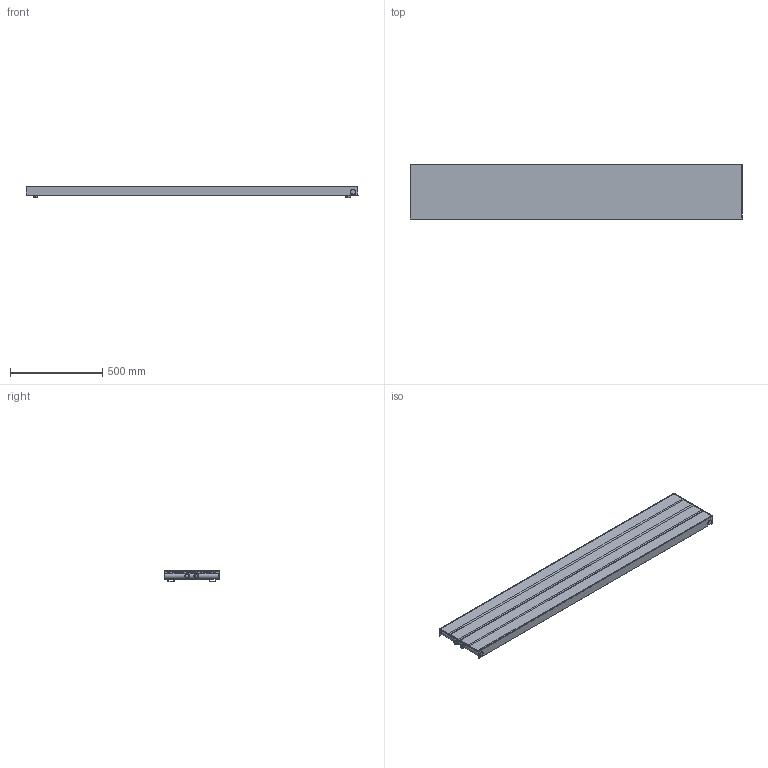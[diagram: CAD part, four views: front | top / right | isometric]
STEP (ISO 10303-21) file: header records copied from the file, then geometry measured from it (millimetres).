
FILE_DESCRIPTION(/* description */ (''),/* implementation_level */ '2;1');
FILE_NAME(/* name */ 'C:\Grzejniki\13DLUXRAD\pokojowe\NIAGARA\to\NIAGARA z osłoną w kolorze standardowym 1800x300.iam.stp',/* time_stamp */ '2016-06-28T17:34:13+02:00',/* author */ ('m.szydziak'),/* organization */ (''),/* preprocessor_version */ 'ST-DEVELOPER v16.5',/* originating_system */ 'Autodesk Inventor 2017',/* authorisation */ '');
FILE_SCHEMA (('AUTOMOTIVE_DESIGN { 1 0 10303 214 3 1 1 }'));
Length unit declared in the file: millimetre
Products named in the file (12): NIAGARA z osłoną w kolorze standa
rdowym 1800x300; NIAGARA 1800x300 osłona; NIAGARA 1800x295 ZDC; %%C30x1,5x295; 70x8x1,2x1804; michałek; ucho duze; ucho duze 2; poprzeczka 255; ZDC dzwonki; dzwonek G0,5inch; korek
Assembly tree (27 placements, depth 4):
  NIAGARA z osłoną w kolorze standa
rdowym 1800x300
    NIAGARA 1800x300 osłona
    NIAGARA 1800x295 ZDC
      %%C30x1,5x295  x2
      70x8x1,2x1804  x4
      michałek  x8
      ucho duze  x2
      ucho duze 2  x2
      poprzeczka 255  x3
      ZDC dzwonki
        dzwonek G0,5inch  x2
      korek
Bounding box: 1802 x 303.5 x 63.3 mm (x, y, z)
Volume: 1992860.1 mm3; surface area: 3734111.7 mm2
Topology: 25 solids, 25 shells, 381 faces, 869 edges, 540 vertices
Faces by surface type: plane 207, cylinder 138, sphere 32, cone 2, bspline 2
Full cylindrical faces by diameter (mm): 8 x8, 9 x8, 10 x16, 11.5 x8, 16 x2, 18.5 x2, 18.631 x6, 22.9 x2, 24 x1, 25.3 x2, 27 x2, 30 x2
Entity records: 5506 total; most frequent: CARTESIAN_POINT 1193, DIRECTION 887, ORIENTED_EDGE 746, EDGE_CURVE 373, AXIS2_PLACEMENT_3D 322, LINE 243, VECTOR 243, VERTEX_POINT 240
